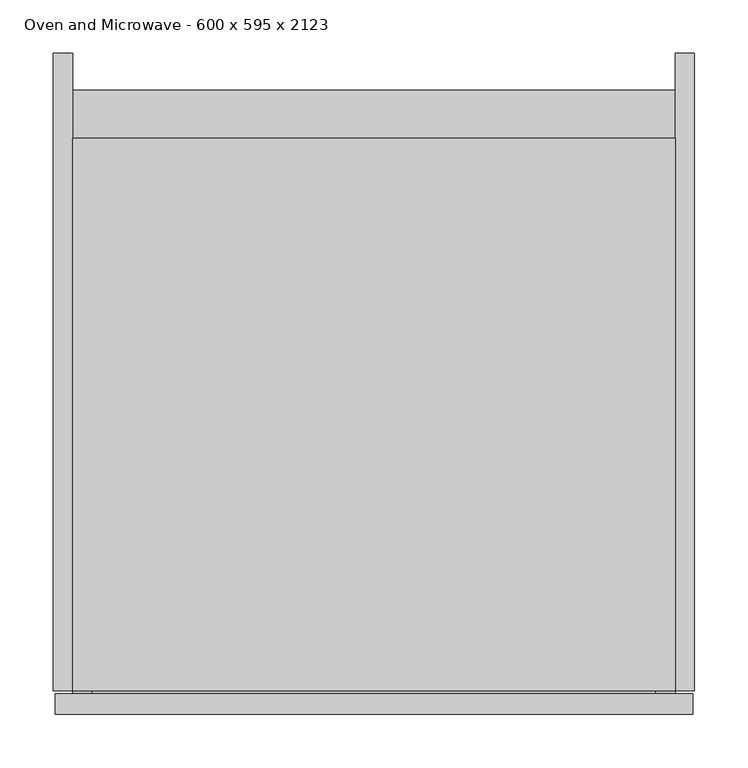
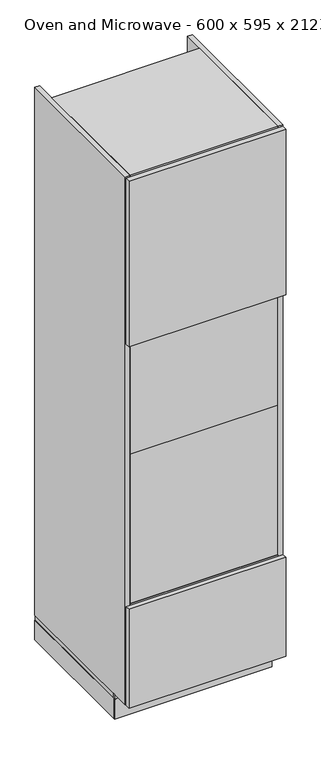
"""IFC4 building model written with IfcOpenShell, lengths in millimetres: furniture geometry, Furniture_Other-Furniture_Molteni&C_Prime_Oven-Microwave-Push-Pull : Oven and Microwave - 600 x 595 x 2123."""

from ifc_helpers import new_model, si_unit, frame, origin, place, context, project, spatial, polyline, circle_curve, outline, extrude, faceted_brep, source, transform, mapped, element, save
from ifc_brep_helpers import plane_surface, cylinder_surface, advanced_brep


def oven_and_microwave_600_x_595_x_2123_aba355bb(model_context):
    return source(origin(), model_context, "Body", "SolidModel", [
        extrude(outline(polyline([(0.0, -292.0), (80.0, -292.0), (80.0, -293.0), (100.0, -293.0), (100.0, -299.0), (80.0, -299.0), (80.0, -300.0), (0.0, -300.0), (0.0, -292.0)])), frame((0.0, -237.5, 0.0), z_axis=(0.0, 1.0, 0.0), x_axis=(0.0, 0.0, 1.0)), (0.0, 0.0, 1.0), 517.9999729),
        faceted_brep([(282.0, -315.5, 479.0), (282.0, 225.4999729, 479.0), (282.0, 225.4999729, 484.0), (282.0, 234.2999727, 484.0), (282.0, 234.2999727, 479.0), (282.0, 246.2999832, 479.0), (282.0, 246.2999832, 501.0), (282.0, -315.5, 501.0), (-282.0, -315.5, 479.0), (-282.0, -315.5, 501.0), (-282.0, 246.2999832, 501.0), (-282.0, 246.2999832, 479.0), (-282.0, 234.2999727, 479.0), (-282.0, 234.2999727, 484.0), (-282.0, 225.4999729, 484.0), (-282.0, 225.4999729, 479.0)], [[[0, 1, 2, 3, 4, 5, 6, 7]], [[8, 9, 10, 11, 12, 13, 14, 15]], [[1, 0, 8, 15]], [[2, 1, 15, 14]], [[3, 2, 14, 13]], [[4, 3, 13, 12]], [[5, 4, 12, 11]], [[6, 5, 11, 10]], [[7, 6, 10, 9]], [[0, 7, 9, 8]]]),
        faceted_brep([(282.0, 246.2999832, 100.0), (282.0, 246.2999832, 122.0), (282.0, 234.2999727, 122.0), (282.0, 234.2999727, 117.0), (282.0, 225.4999729, 117.0), (282.0, 225.4999729, 122.0), (282.0, -315.5, 122.0), (282.0, -315.5, 100.0), (-282.0, 246.2999832, 100.0), (-282.0, -315.5, 100.0), (-282.0, -315.5, 122.0), (-282.0, 225.4999729, 122.0), (-282.0, 225.4999729, 117.0), (-282.0, 234.2999727, 117.0), (-282.0, 234.2999727, 122.0), (-282.0, 246.2999832, 122.0)], [[[0, 1, 2, 3, 4, 5, 6, 7]], [[8, 9, 10, 11, 12, 13, 14, 15]], [[1, 0, 8, 15]], [[2, 1, 15, 14]], [[3, 2, 14, 13]], [[4, 3, 13, 12]], [[5, 4, 12, 11]], [[6, 5, 11, 10]], [[7, 6, 10, 9]], [[0, 7, 9, 8]]]),
        faceted_brep([(282.0, 201.2999729, 1551.0), (282.0, 201.2999729, 1573.0), (282.0, 194.2999729, 1573.0), (282.0, 194.2999729, 1568.0), (282.0, 185.4999729, 1568.0), (282.0, 185.4999729, 1573.0), (282.0, -315.5, 1573.0), (282.0, -315.5, 1551.0), (-282.0, 201.2999729, 1551.0), (-282.0, -315.5, 1551.0), (-282.0, -315.5, 1573.0), (-282.0, 185.4999729, 1573.0), (-282.0, 185.4999729, 1568.0), (-282.0, 194.2999729, 1568.0), (-282.0, 194.2999729, 1573.0), (-282.0, 201.2999729, 1573.0)], [[[0, 1, 2, 3, 4, 5, 6, 7]], [[8, 9, 10, 11, 12, 13, 14, 15]], [[1, 0, 8, 15]], [[2, 1, 15, 14]], [[3, 2, 14, 13]], [[4, 3, 13, 12]], [[5, 4, 12, 11]], [[6, 5, 11, 10]], [[7, 6, 10, 9]], [[0, 7, 9, 8]]]),
        faceted_brep([(282.0, -315.5, 2223.0), (282.0, -315.5, 2200.850317), (282.0, 185.4999729, 2200.850317), (282.0, 185.4999729, 2205.850317), (282.0, 194.2999729, 2205.850317), (282.0, 194.2999729, 2200.850317), (282.0, 201.2999729, 2200.850317), (282.0, 201.2999729, 2223.0), (-282.0, -315.5, 2223.0), (-282.0, 201.2999729, 2223.0), (-282.0, 201.2999729, 2200.850317), (-282.0, 194.2999729, 2200.850317), (-282.0, 194.2999729, 2205.850317), (-282.0, 185.4999729, 2205.850317), (-282.0, 185.4999729, 2200.850317), (-282.0, -315.5, 2200.850317)], [[[0, 1, 2, 3, 4, 5, 6, 7]], [[8, 9, 10, 11, 12, 13, 14, 15]], [[1, 0, 8, 15]], [[2, 1, 15, 14]], [[3, 2, 14, 13]], [[4, 3, 13, 12]], [[5, 4, 12, 11]], [[6, 5, 11, 10]], [[7, 6, 10, 9]], [[0, 7, 9, 8]]]),
        faceted_brep([(282.0, -315.5, 1895.0563158), (282.0, -315.5, 1873.0563158), (282.0, 185.4999729, 1873.0563158), (282.0, 185.4999729, 1895.0563158), (-282.0, -315.5, 1895.0563158), (-282.0, 185.4999729, 1895.0563158), (-282.0, 185.4999729, 1873.0563158), (-282.0, -315.5, 1873.0563158)], [[[0, 1, 2, 3]], [[4, 5, 6, 7]], [[1, 0, 4, 7]], [[2, 1, 7, 6]], [[3, 2, 6, 5]], [[0, 3, 5, 4]]]),
        faceted_brep([(-282.0, -318.5, 421.0), (-264.0, -318.5, 421.0), (-264.0, 153.5768403, 421.0), (264.0, 153.5768403, 421.0), (264.0, -318.5, 421.0), (282.0, -318.5, 421.0), (282.0, 171.5768403, 421.0), (-282.0, 171.5768403, 421.0), (-282.0, -318.5, 152.0), (-282.0, 171.5768403, 152.0), (282.0, 171.5768403, 152.0), (282.0, -318.5, 152.0), (264.0, -318.5, 168.0), (-264.0, -318.5, 168.0), (-264.0, 153.5768403, 168.0), (264.0, 153.5768403, 168.0)], [[[0, 1, 2, 3, 4, 5, 6, 7]], [[8, 9, 10, 11]], [[1, 0, 8, 11, 5, 4, 12, 13]], [[2, 1, 13, 14]], [[3, 2, 14, 15]], [[4, 3, 15, 12]], [[6, 5, 11, 10]], [[7, 6, 10, 9]], [[0, 7, 9, 8]], [[13, 12, 15, 14]]]),
        advanced_brep(
        [(-285.0, 96.2987155, 100.0), (-255.0, 96.2987155, 100.0), (-180.4, 171.8986884, 100.0), (-180.4, 200.9422197, 100.0), (-285.0, 200.9422197, 100.0), (-285.0, 96.2987155, 76.0), (-285.0, 200.9422197, 76.0), (-180.4, 200.9422197, 76.0), (-180.4, 171.8986884, 76.0), (-255.0, 96.2987155, 76.0), (-259.0, 163.6742468, 76.0), (-259.0, 193.6742468, 76.0), (-259.0, 202.1782988, 0.0), (-259.0, 155.1701948, 0.0), (-259.0, 163.6742468, 6.1757403), (-259.0, 193.6742468, 6.1757403), (-259.0, 202.1782988, 6.1757403), (-259.0, 155.1701948, 6.1757403)],
        [
            (0, 1),
            (1, 2),
            (2, 3),
            (3, 4),
            (4, 0),
            (5, 6),
            (6, 7),
            (7, 8),
            (8, 9),
            (9, 5),
            (10, 11, circle_curve(frame((-259.0, 178.6742468, 76.0), z_axis=(0.0, 0.0, 1.0), x_axis=(1.0, 0.0, 0.0)), 15.0)),
            (11, 10, circle_curve(frame((-259.0, 178.6742468, 76.0), z_axis=(0.0, 0.0, 1.0), x_axis=(1.0, 0.0, 0.0)), 15.0)),
            (0, 5),
            (9, 1),
            (8, 2),
            (7, 3),
            (6, 4),
            (12, 13, circle_curve(frame((-259.0, 178.6742468, 0.0), z_axis=(0.0, 0.0, -1.0), x_axis=(1.0, 0.0, 0.0)), 23.504052)),
            (13, 12, circle_curve(frame((-259.0, 178.6742468, 0.0), z_axis=(0.0, 0.0, -1.0), x_axis=(1.0, 0.0, 0.0)), 23.504052)),
            (10, 14),
            (14, 15, circle_curve(frame((-259.0, 178.6742468, 6.1757403), z_axis=(0.0, 0.0, 1.0), x_axis=(1.0, 0.0, 0.0)), 15.0)),
            (15, 11),
            (15, 14, circle_curve(frame((-259.0, 178.6742468, 6.1757403), z_axis=(0.0, 0.0, 1.0), x_axis=(1.0, 0.0, 0.0)), 15.0)),
            (16, 17, circle_curve(frame((-259.0, 178.6742468, 6.1757403), z_axis=(0.0, 0.0, 1.0), x_axis=(1.0, 0.0, 0.0)), 23.504052)),
            (17, 16, circle_curve(frame((-259.0, 178.6742468, 6.1757403), z_axis=(0.0, 0.0, 1.0), x_axis=(1.0, 0.0, 0.0)), 23.504052)),
            (16, 12),
            (13, 17),
        ],
        [
            plane_surface(frame((-285.0, 96.2987155, 100.0), z_axis=(0.0, 0.0, 1.0), x_axis=(1.0, 0.0, 0.0))),
            plane_surface(frame((-285.0, 96.2987155, 76.0), z_axis=(0.0, 0.0, -1.0), x_axis=(-1.0, 0.0, 0.0))),
            plane_surface(frame((-285.0, 96.2987155, 100.0), z_axis=(0.0, -1.0, 0.0), x_axis=(0.0, 0.0, -1.0))),
            plane_surface(frame((-255.0, 96.2987155, 100.0), z_axis=(0.7117986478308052, -0.7023835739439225, 0.0), x_axis=(0.0, 0.0, -1.0))),
            plane_surface(frame((-180.4, 171.8986884, 100.0), z_axis=(1.0, 0.0, 0.0), x_axis=(0.0, 0.0, -1.0))),
            plane_surface(frame((-180.4, 200.9422197, 100.0), z_axis=(0.0, 1.0, 0.0), x_axis=(0.0, 0.0, -1.0))),
            plane_surface(frame((-285.0, 200.9422197, 100.0), z_axis=(-1.0, 0.0, 0.0), x_axis=(0.0, 0.0, -1.0))),
            plane_surface(frame((-244.0, 178.6742468, 0.0), z_axis=(0.0, 0.0, -1.0), x_axis=(0.0, -1.0, 0.0))),
            cylinder_surface(frame((-259.0, 178.6742468, 0.0), z_axis=(0.0, 0.0, 1.0), x_axis=(1.0, 0.0, 0.0)), 15.0),
            plane_surface(frame((282.504052, -214.178326, 6.1757403), z_axis=(0.0, 0.0, 1.0), x_axis=(0.0, 1.0, 0.0))),
            cylinder_surface(frame((-259.0, 178.6742468, 0.0), z_axis=(0.0, 0.0, 1.0), x_axis=(1.0, 0.0, 0.0)), 23.504052),
        ],
        [
            (0, [[1, 2, 3, 4, 5]]),
            (1, [[6, 7, 8, 9, 10], [11, 12]]),
            (2, [[-1, 13, -10, 14]]),
            (3, [[-2, -14, -9, 15]]),
            (4, [[-3, -15, -8, 16]]),
            (5, [[-4, -16, -7, 17]]),
            (6, [[-5, -17, -6, -13]]),
            (7, [[18, 19]]),
            (8, [[-11, 20, 21, 22]]),
            (8, [[-12, -22, 23, -20]]),
            (9, [[24, 25], [-21, -23]]),
            (10, [[-24, 26, -19, 27]]),
            (10, [[-25, -27, -18, -26]]),
        ],
    ),
        advanced_brep(
        [(285.0, 96.2987155, 100.0), (285.0, 200.9422197, 100.0), (180.4, 200.9422197, 100.0), (180.4, 171.8986884, 100.0), (255.0, 96.2987155, 100.0), (285.0, 96.2987155, 76.0), (255.0, 96.2987155, 76.0), (180.4, 171.8986884, 76.0), (180.4, 200.9422197, 76.0), (285.0, 200.9422197, 76.0), (259.0, 163.6742468, 76.0), (259.0, 193.6742468, 76.0), (259.0, 202.1782988, 0.0), (259.0, 155.1701948, 0.0), (259.0, 163.6742468, 6.1757403), (259.0, 193.6742468, 6.1757403), (259.0, 202.1782988, 6.1757403), (259.0, 155.1701948, 6.1757403)],
        [
            (0, 1),
            (1, 2),
            (2, 3),
            (3, 4),
            (4, 0),
            (5, 6),
            (6, 7),
            (7, 8),
            (8, 9),
            (9, 5),
            (10, 11, circle_curve(frame((259.0, 178.6742468, 76.0), z_axis=(0.0, 0.0, 1.0), x_axis=(1.0, 0.0, 0.0)), 15.0)),
            (11, 10, circle_curve(frame((259.0, 178.6742468, 76.0), z_axis=(0.0, 0.0, 1.0), x_axis=(1.0, 0.0, 0.0)), 15.0)),
            (0, 5),
            (9, 1),
            (8, 2),
            (7, 3),
            (6, 4),
            (12, 13, circle_curve(frame((259.0, 178.6742468, 0.0), z_axis=(0.0, 0.0, -1.0), x_axis=(1.0, 0.0, 0.0)), 23.504052)),
            (13, 12, circle_curve(frame((259.0, 178.6742468, 0.0), z_axis=(0.0, 0.0, -1.0), x_axis=(1.0, 0.0, 0.0)), 23.504052)),
            (10, 14),
            (14, 15, circle_curve(frame((259.0, 178.6742468, 6.1757403), z_axis=(0.0, 0.0, 1.0), x_axis=(1.0, 0.0, 0.0)), 15.0)),
            (15, 11),
            (15, 14, circle_curve(frame((259.0, 178.6742468, 6.1757403), z_axis=(0.0, 0.0, 1.0), x_axis=(1.0, 0.0, 0.0)), 15.0)),
            (16, 17, circle_curve(frame((259.0, 178.6742468, 6.1757403), z_axis=(0.0, 0.0, 1.0), x_axis=(1.0, 0.0, 0.0)), 23.504052)),
            (17, 16, circle_curve(frame((259.0, 178.6742468, 6.1757403), z_axis=(0.0, 0.0, 1.0), x_axis=(1.0, 0.0, 0.0)), 23.504052)),
            (16, 12),
            (13, 17),
        ],
        [
            plane_surface(frame((-285.0, 96.2987155, 100.0), z_axis=(0.0, 0.0, 1.0), x_axis=(1.0, 0.0, 0.0))),
            plane_surface(frame((-285.0, 96.2987155, 76.0), z_axis=(0.0, 0.0, -1.0), x_axis=(-1.0, 0.0, 0.0))),
            plane_surface(frame((285.0, 96.2987155, 100.0), z_axis=(1.0, 0.0, 0.0), x_axis=(0.0, 0.0, -1.0))),
            plane_surface(frame((285.0, 200.9422197, 100.0), z_axis=(0.0, 1.0, 0.0), x_axis=(0.0, 0.0, -1.0))),
            plane_surface(frame((180.4, 200.9422197, 100.0), z_axis=(-1.0, 0.0, 0.0), x_axis=(0.0, 0.0, -1.0))),
            plane_surface(frame((180.4, 171.8986884, 100.0), z_axis=(-0.7117986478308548, -0.7023835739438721, 0.0), x_axis=(0.0, 0.0, -1.0))),
            plane_surface(frame((255.0, 96.2987155, 100.0), z_axis=(0.0, -1.0, 0.0), x_axis=(0.0, 0.0, -1.0))),
            plane_surface(frame((-244.0, 178.6742468, 0.0), z_axis=(0.0, 0.0, -1.0), x_axis=(0.0, -1.0, 0.0))),
            cylinder_surface(frame((259.0, 178.6742468, 0.0), z_axis=(0.0, 0.0, 1.0), x_axis=(1.0, 0.0, 0.0)), 15.0),
            plane_surface(frame((282.504052, -214.178326, 6.1757403), z_axis=(0.0, 0.0, 1.0), x_axis=(0.0, 1.0, 0.0))),
            cylinder_surface(frame((259.0, 178.6742468, 0.0), z_axis=(0.0, 0.0, 1.0), x_axis=(1.0, 0.0, 0.0)), 23.504052),
        ],
        [
            (0, [[1, 2, 3, 4, 5]]),
            (1, [[6, 7, 8, 9, 10], [11, 12]]),
            (2, [[-1, 13, -10, 14]]),
            (3, [[-2, -14, -9, 15]]),
            (4, [[-3, -15, -8, 16]]),
            (5, [[-4, -16, -7, 17]]),
            (6, [[-5, -17, -6, -13]]),
            (7, [[18, 19]]),
            (8, [[-11, 20, 21, 22]]),
            (8, [[-12, -22, 23, -20]]),
            (9, [[24, 25], [-21, -23]]),
            (10, [[-24, 26, -19, 27]]),
            (10, [[-25, -27, -18, -26]]),
        ],
    ),
        advanced_brep(
        [(285.0, -237.5, 100.0), (285.0, -133.2574752, 100.0), (255.0, -133.2574752, 100.0), (180.4, -207.8574752, 100.0), (180.4, -237.5, 100.0), (-285.0, -237.5, 100.0), (-180.4, -237.5, 100.0), (-180.4, -207.8574752, 100.0), (-255.0, -133.2574752, 100.0), (-285.0, -133.2574752, 100.0), (180.4, -237.5, 76.0), (180.4, -207.8574752, 76.0), (255.0, -133.2574752, 76.0), (285.0, -133.2574752, 76.0), (285.0, -237.5, 76.0), (259.0, -228.674274, 76.0), (259.0, -198.674274, 76.0), (-285.0, -237.5, 76.0), (-285.0, -133.2574752, 76.0), (-255.0, -133.2574752, 76.0), (-180.4, -207.8574752, 76.0), (-180.4, -237.5, 76.0), (-259.0, -228.674274, 76.0), (-259.0, -198.674274, 76.0), (285.0, -237.5, 80.0), (180.4, -237.5, 80.0), (-285.0, -237.5, 80.0), (-180.4, -237.5, 80.0), (-261.9223247, -237.5, 0.0), (-259.0, -190.674274, 0.0), (-256.0776753, -237.5, 0.0), (256.0776753, -237.5, 0.0), (259.0, -190.674274, 0.0), (261.9223247, -237.5, 0.0), (300.0, -237.5, 0.0), (300.0, -245.5, 0.0), (-300.0, -245.5, 0.0), (-300.0, -237.5, 0.0), (-259.0, -228.674274, 6.1757403), (-259.0, -198.674274, 6.1757403), (259.0, -228.674274, 6.1757403), (259.0, -198.674274, 6.1757403), (259.0, -190.674274, 6.1757403), (256.0776753, -237.5, 6.1757403), (261.9223247, -237.5, 6.1757403), (-256.0776753, -237.5, 6.1757403), (-259.0, -190.674274, 6.1757403), (-261.9223247, -237.5, 6.1757403), (300.0, -245.5, 80.0), (300.0, -237.5, 80.0), (300.0, -238.5, 80.0), (300.0, -238.5, 100.0), (300.0, -244.5, 100.0), (300.0, -244.5, 80.0), (-300.0, -245.5, 80.0), (-300.0, -244.5, 80.0), (-300.0, -244.5, 100.0), (-300.0, -238.5, 100.0), (-300.0, -238.5, 80.0), (-300.0, -237.5, 80.0)],
        [
            (0, 1),
            (1, 2),
            (2, 3),
            (3, 4),
            (4, 0),
            (5, 6),
            (6, 7),
            (7, 8),
            (8, 9),
            (9, 5),
            (10, 11),
            (11, 12),
            (12, 13),
            (13, 14),
            (14, 10),
            (15, 16, circle_curve(frame((259.0, -213.674274, 76.0), z_axis=(0.0, 0.0, 1.0), x_axis=(1.0, 0.0, 0.0)), 15.0)),
            (16, 15, circle_curve(frame((259.0, -213.674274, 76.0), z_axis=(0.0, 0.0, 1.0), x_axis=(1.0, 0.0, 0.0)), 15.0)),
            (17, 18),
            (18, 19),
            (19, 20),
            (20, 21),
            (21, 17),
            (22, 23, circle_curve(frame((-259.0, -213.674274, 76.0), z_axis=(0.0, 0.0, 1.0), x_axis=(1.0, 0.0, 0.0)), 15.0)),
            (23, 22, circle_curve(frame((-259.0, -213.674274, 76.0), z_axis=(0.0, 0.0, 1.0), x_axis=(1.0, 0.0, 0.0)), 15.0)),
            (0, 24),
            (24, 14),
            (13, 1),
            (12, 2),
            (11, 3),
            (10, 25),
            (25, 4),
            (25, 24),
            (5, 26),
            (26, 27),
            (27, 6),
            (27, 21),
            (20, 7),
            (19, 8),
            (18, 9),
            (17, 26),
            (28, 29, circle_curve(frame((-259.0, -214.178326, 0.0), z_axis=(0.0, 0.0, -1.0), x_axis=(1.0, 0.0, 0.0)), 23.504052)),
            (29, 30, circle_curve(frame((-259.0, -214.178326, 0.0), z_axis=(0.0, 0.0, -1.0), x_axis=(1.0, 0.0, 0.0)), 23.504052)),
            (30, 31),
            (31, 32, circle_curve(frame((259.0, -214.178326, 0.0), z_axis=(0.0, 0.0, -1.0), x_axis=(1.0, 0.0, 0.0)), 23.504052)),
            (32, 33, circle_curve(frame((259.0, -214.178326, 0.0), z_axis=(0.0, 0.0, -1.0), x_axis=(1.0, 0.0, 0.0)), 23.504052)),
            (33, 34),
            (34, 35),
            (35, 36),
            (36, 37),
            (37, 28),
            (22, 38),
            (38, 39, circle_curve(frame((-259.0, -213.674274, 6.1757403), z_axis=(0.0, 0.0, 1.0), x_axis=(1.0, 0.0, 0.0)), 15.0)),
            (39, 23),
            (39, 38, circle_curve(frame((-259.0, -213.674274, 6.1757403), z_axis=(0.0, 0.0, 1.0), x_axis=(1.0, 0.0, 0.0)), 15.0)),
            (15, 40),
            (40, 41, circle_curve(frame((259.0, -213.674274, 6.1757403), z_axis=(0.0, 0.0, 1.0), x_axis=(1.0, 0.0, 0.0)), 15.0)),
            (41, 16),
            (41, 40, circle_curve(frame((259.0, -213.674274, 6.1757403), z_axis=(0.0, 0.0, 1.0), x_axis=(1.0, 0.0, 0.0)), 15.0)),
            (42, 43, circle_curve(frame((259.0, -214.178326, 6.1757403), z_axis=(0.0, 0.0, 1.0), x_axis=(1.0, 0.0, 0.0)), 23.504052)),
            (43, 44),
            (44, 42, circle_curve(frame((259.0, -214.178326, 6.1757403), z_axis=(0.0, 0.0, 1.0), x_axis=(1.0, 0.0, 0.0)), 23.504052)),
            (45, 46, circle_curve(frame((-259.0, -214.178326, 6.1757403), z_axis=(0.0, 0.0, 1.0), x_axis=(1.0, 0.0, 0.0)), 23.504052)),
            (46, 47, circle_curve(frame((-259.0, -214.178326, 6.1757403), z_axis=(0.0, 0.0, 1.0), x_axis=(1.0, 0.0, 0.0)), 23.504052)),
            (47, 45),
            (42, 32),
            (31, 43),
            (44, 33),
            (29, 46),
            (45, 30),
            (28, 47),
            (48, 35),
            (34, 49),
            (49, 50),
            (50, 51),
            (51, 52),
            (52, 53),
            (53, 48),
            (54, 55),
            (55, 56),
            (56, 57),
            (57, 58),
            (58, 59),
            (59, 37),
            (36, 54),
            (48, 54),
            (59, 26),
            (27, 25),
            (24, 49),
            (58, 50),
            (57, 51),
            (56, 52),
            (55, 53),
        ],
        [
            plane_surface(frame((-285.0, 96.2987155, 100.0), z_axis=(0.0, 0.0, 1.0), x_axis=(1.0, 0.0, 0.0))),
            plane_surface(frame((-285.0, 96.2987155, 76.0), z_axis=(0.0, 0.0, -1.0), x_axis=(-1.0, 0.0, 0.0))),
            plane_surface(frame((285.0, -237.5, 100.0), z_axis=(1.0, 0.0, 0.0), x_axis=(0.0, 0.0, -1.0))),
            plane_surface(frame((285.0, -133.2574752, 100.0), z_axis=(0.0, 1.0, 0.0), x_axis=(0.0, 0.0, -1.0))),
            plane_surface(frame((255.0, -133.2574752, 100.0), z_axis=(-0.7071067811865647, 0.7071067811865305, 0.0), x_axis=(0.0, 0.0, -1.0))),
            plane_surface(frame((180.4, -207.8574752, 100.0), z_axis=(-1.0, 0.0, 0.0), x_axis=(0.0, 0.0, -1.0))),
            plane_surface(frame((180.4, -237.5, 100.0), z_axis=(0.0, -1.0, 0.0), x_axis=(0.0, 0.0, -1.0))),
            plane_surface(frame((-285.0, -237.5, 100.0), z_axis=(0.0, -1.0, 0.0), x_axis=(0.0, 0.0, -1.0))),
            plane_surface(frame((-180.4, -237.5, 100.0), z_axis=(1.0, 0.0, 0.0), x_axis=(0.0, 0.0, -1.0))),
            plane_surface(frame((-180.4, -207.8574752, 100.0), z_axis=(0.7071067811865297, 0.7071067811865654, 0.0), x_axis=(0.0, 0.0, -1.0))),
            plane_surface(frame((-255.0, -133.2574752, 100.0), z_axis=(0.0, 1.0, 0.0), x_axis=(0.0, 0.0, -1.0))),
            plane_surface(frame((-285.0, -133.2574752, 100.0), z_axis=(-1.0, 0.0, 0.0), x_axis=(0.0, 0.0, -1.0))),
            plane_surface(frame((-244.0, 178.6742468, 0.0), z_axis=(0.0, 0.0, -1.0), x_axis=(0.0, -1.0, 0.0))),
            cylinder_surface(frame((-259.0, -213.674274, 0.0), z_axis=(0.0, 0.0, 1.0), x_axis=(1.0, 0.0, 0.0)), 15.0),
            cylinder_surface(frame((259.0, -213.674274, 0.0), z_axis=(0.0, 0.0, 1.0), x_axis=(1.0, 0.0, 0.0)), 15.0),
            plane_surface(frame((282.504052, -214.178326, 6.1757403), z_axis=(0.0, 0.0, 1.0), x_axis=(0.0, 1.0, 0.0))),
            cylinder_surface(frame((259.0, -214.178326, 0.0), z_axis=(0.0, 0.0, 1.0), x_axis=(1.0, 0.0, 0.0)), 23.504052),
            cylinder_surface(frame((-259.0, -214.178326, 0.0), z_axis=(0.0, 0.0, 1.0), x_axis=(1.0, 0.0, 0.0)), 23.504052),
            plane_surface(frame((300.0, -245.5, -10.0), z_axis=(1.0, 0.0, 0.0), x_axis=(0.0, 0.0, -1.0))),
            plane_surface(frame((-300.0, -245.5, -10.0), z_axis=(-1.0, 0.0, 0.0), x_axis=(0.0, 0.0, 1.0))),
            plane_surface(frame((300.0, -245.5, 80.0), z_axis=(0.0, -1.0, 0.0), x_axis=(-1.0, 0.0, 0.0))),
            plane_surface(frame((300.0, -237.5, 0.0), z_axis=(0.0, 1.0, 0.0), x_axis=(-1.0, 0.0, 0.0))),
            plane_surface(frame((300.0, -237.5, 80.0), z_axis=(0.0, 0.0, 1.0), x_axis=(-1.0, 0.0, 0.0))),
            plane_surface(frame((300.0, -238.5, 80.0), z_axis=(0.0, 1.0, 0.0), x_axis=(-1.0, 0.0, 0.0))),
            plane_surface(frame((300.0, -238.5, 100.0), z_axis=(0.0, 0.0, 1.0), x_axis=(-1.0, 0.0, 0.0))),
            plane_surface(frame((300.0, -244.5, 100.0), z_axis=(0.0, -1.0, 0.0), x_axis=(-1.0, 0.0, 0.0))),
            plane_surface(frame((300.0, -244.5, 80.0), z_axis=(0.0, 0.0, 1.0), x_axis=(-1.0, 0.0, 0.0))),
        ],
        [
            (0, [[1, 2, 3, 4, 5]]),
            (0, [[6, 7, 8, 9, 10]]),
            (1, [[11, 12, 13, 14, 15], [16, 17]]),
            (1, [[18, 19, 20, 21, 22], [23, 24]]),
            (2, [[-1, 25, 26, -14, 27]]),
            (3, [[-2, -27, -13, 28]]),
            (4, [[-3, -28, -12, 29]]),
            (5, [[-4, -29, -11, 30, 31]]),
            (6, [[-5, -31, 32, -25]]),
            (7, [[-6, 33, 34, 35]]),
            (8, [[-7, -35, 36, -21, 37]]),
            (9, [[-8, -37, -20, 38]]),
            (10, [[-9, -38, -19, 39]]),
            (11, [[-10, -39, -18, 40, -33]]),
            (12, [[41, 42, 43, 44, 45, 46, 47, 48, 49, 50]]),
            (13, [[-23, 51, 52, 53]]),
            (13, [[-24, -53, 54, -51]]),
            (14, [[-16, 55, 56, 57]]),
            (14, [[-17, -57, 58, -55]]),
            (15, [[59, 60, 61], [-56, -58]]),
            (15, [[62, 63, 64], [-52, -54]]),
            (16, [[65, -44, 66, -59]]),
            (16, [[-65, -61, 67, -45]]),
            (17, [[68, -62, 69, -42]]),
            (17, [[-68, -41, 70, -63]]),
            (18, [[71, -47, 72, 73, 74, 75, 76, 77]]),
            (19, [[78, 79, 80, 81, 82, 83, -49, 84]]),
            (20, [[-71, 85, -84, -48]]),
            (21, [[-72, -46, -67, -60, -66, -43, -69, -64, -70, -50, -83, 86, -40, -22, -36, 87, -30, -15, -26, 88]]),
            (22, [[-73, -88, -32, -87, -34, -86, -82, 89]]),
            (23, [[-74, -89, -81, 90]]),
            (24, [[-75, -90, -80, 91]]),
            (25, [[-76, -91, -79, 92]]),
            (26, [[-77, -92, -78, -85]]),
        ],
    ),
        faceted_brep([(300.0, -315.5, 2223.0), (300.0, 280.4999729, 2223.0), (282.0, 280.4999729, 2223.0), (282.0, -315.5, 2223.0), (300.0, -315.5, 100.0), (282.0, -315.5, 100.0), (282.0, 280.4999729, 100.0), (300.0, 280.4999729, 100.0), (282.0, 234.2999727, 484.0), (282.0, 225.4999729, 484.0), (282.0, 225.4999729, 117.0), (282.0, 234.2999727, 117.0), (282.0, 194.2999729, 1568.0), (282.0, 194.2999729, 2205.850317), (282.0, 185.4999729, 2205.850317), (282.0, 185.4999729, 1568.0), (-300.0, -315.5, 2223.0), (-282.0, -315.5, 2223.0), (-282.0, 280.4999729, 2223.0), (-300.0, 280.4999729, 2223.0), (-300.0, -315.5, 100.0), (-300.0, 280.4999729, 100.0), (-282.0, 280.4999729, 100.0), (-282.0, -315.5, 100.0), (-282.0, 225.4999729, 484.0), (-282.0, 234.2999727, 484.0), (-282.0, 234.2999727, 117.0), (-282.0, 225.4999729, 117.0), (-282.0, 194.2999729, 2205.850317), (-282.0, 194.2999729, 1568.0), (-282.0, 185.4999729, 1568.0), (-282.0, 185.4999729, 2205.850317)], [[[0, 1, 2, 3]], [[4, 5, 6, 7]], [[0, 3, 5, 4]], [[3, 2, 6, 5], [8, 9, 10, 11], [12, 13, 14, 15]], [[2, 1, 7, 6]], [[1, 0, 4, 7]], [[16, 17, 18, 19]], [[20, 21, 22, 23]], [[17, 16, 20, 23]], [[18, 17, 23, 22], [24, 25, 26, 27], [28, 29, 30, 31]], [[19, 18, 22, 21]], [[16, 19, 21, 20]], [[24, 9, 8, 25]], [[26, 11, 10, 27]], [[9, 24, 27, 10]], [[25, 8, 11, 26]], [[12, 29, 28, 13]], [[13, 28, 31, 14]], [[14, 31, 30, 15]], [[29, 12, 15, 30]]]),
        extrude(outline(polyline([(282.0, -315.5), (-282.0, -315.5), (-282.0, 194.2999729), (282.0, 194.2999729), (282.0, -315.5)])), frame((0.0, 0.0, 501.0), z_axis=(0.0, 0.0, 1.0), x_axis=(1.0, 0.0, 0.0)), (0.0, 0.0, 1.0), 600.0),
        extrude(outline(polyline([(282.0, -315.5), (-282.0, -315.5), (-282.0, 194.2999729), (282.0, 194.2999729), (282.0, -315.5)])), frame((0.0, 0.0, 1101.0), z_axis=(0.0, 0.0, 1.0), x_axis=(1.0, 0.0, 0.0)), (0.0, 0.0, 1.0), 450.0),
        extrude(outline(polyline([(298.5, -318.5), (298.5, -337.5), (-298.5, -337.5), (-298.5, -318.5), (298.5, -318.5)])), frame((0.0, 0.0, 100.0), z_axis=(0.0, 0.0, 1.0), x_axis=(1.0, 0.0, 0.0)), (0.0, 0.0, 1.0), 397.0),
        extrude(outline(polyline([(-298.5, -318.5), (298.5, -318.5), (298.5, -337.5), (-298.5, -337.5), (-298.5, -318.5)])), frame((0.0, 0.0, 1552.5), z_axis=(0.0, 0.0, 1.0), x_axis=(1.0, 0.0, 0.0)), (0.0, 0.0, 1.0), 666.5),
    ])


if __name__ == "__main__":
    model = new_model("IFC4")
    model_context = context("Model", 3, world=origin())
    ifc_project = project(units=[si_unit("LENGTHUNIT", "METRE", prefix="MILLI")], contexts=[model_context])
    site = spatial("IfcSite", under=ifc_project)
    building = spatial("IfcBuilding", under=site)
    placement = place(None, origin())
    oven_and_microwave_600_x_595_x_2123_shape = oven_and_microwave_600_x_595_x_2123_aba355bb(model_context)
    element("IfcFurniture", 1, ObjectType="Furniture_Other-Furniture_Molteni&C_Prime_Oven-Microwave-Push-Pull : Oven and Microwave - 600 x 595 x 2123", at=placement, inside=building, context=model_context, shape_type="MappedRepresentation", body=[
        mapped(oven_and_microwave_600_x_595_x_2123_shape, transform((0.0, 0.0, 0.0), x_axis=(1.0, 0.0, 0.0), y_axis=(0.0, 1.0, 0.0), z_axis=(0.0, 0.0, 1.0))),
    ])
    save(model, "model.ifc")
